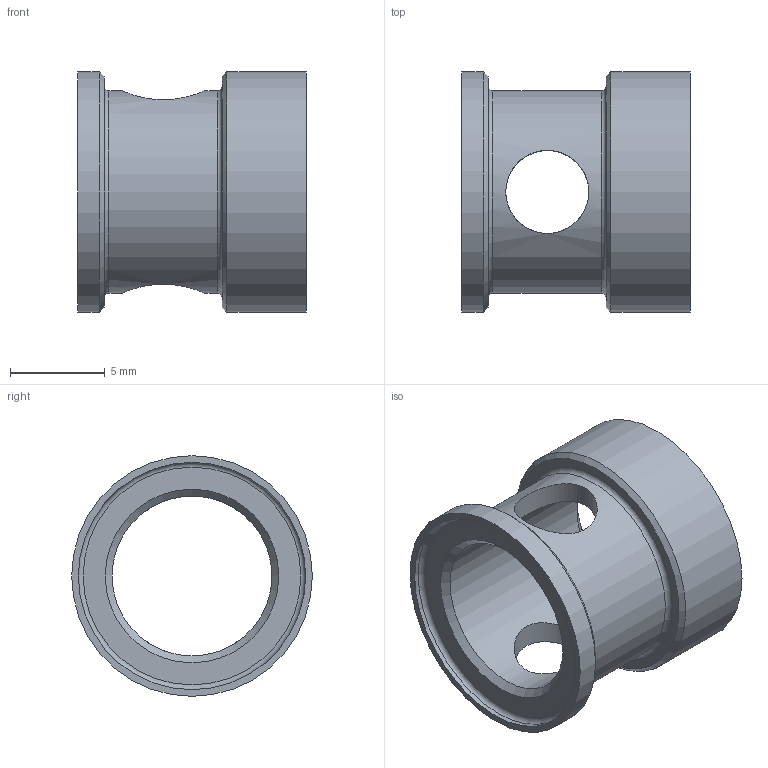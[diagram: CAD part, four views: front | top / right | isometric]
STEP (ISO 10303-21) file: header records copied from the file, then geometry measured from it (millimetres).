
FILE_DESCRIPTION (( 'STEP AP203' ), '1' );
FILE_NAME ('DIAD5001001.STEP', '2025-03-26T12:33:01', ( '' ), ( '' ), 'SwSTEP 2.0', 'SolidWorks 2023', '' );
FILE_SCHEMA (( 'CONFIG_CONTROL_DESIGN' ));
Length unit declared in the file: inch
Products named in the file (1): DIAD5001001
Bounding box: 12.06 x 12.69 x 12.69 mm (x, y, z)
Volume: 495.7 mm3; surface area: 905.2 mm2
Topology: 1 solids, 1 shells, 23 faces, 49 edges, 30 vertices
Faces by surface type: cylinder 8, plane 6, cone 5, torus 4
Full cylindrical faces by diameter (mm): 4.381 x2, 8.433 x1, 10.668 x1, 11.112 x1, 11.989 x1, 12.689 x2
Entity records: 799 total; most frequent: CARTESIAN_POINT 310, DIRECTION 90, ORIENTED_EDGE 50, EDGE_LOOP 50, AXIS2_PLACEMENT_3D 45, FACE_OUTER_BOUND 35, VERTEX_POINT 25, EDGE_CURVE 25
